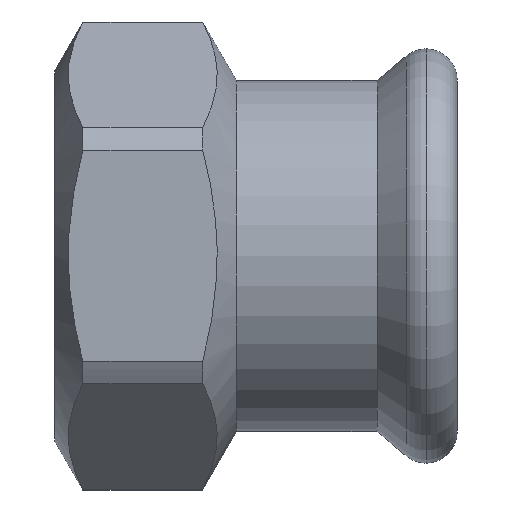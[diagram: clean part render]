
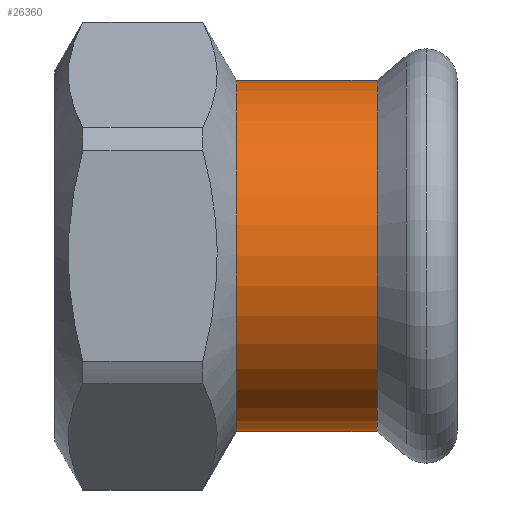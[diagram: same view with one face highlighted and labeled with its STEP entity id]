
A CAD part, top view. The second image highlights one B-rep face of the part: STEP entity #26360.
In plain terms, the highlighted cylindrical face has radius 22.7 mm (diameter 45.4 mm), a partial arc.
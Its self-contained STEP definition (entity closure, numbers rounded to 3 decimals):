
#1140=CARTESIAN_POINT('',(270.035,97.842,
0.));
#1150=VERTEX_POINT('',#1140);
#4150=CARTESIAN_POINT('',(270.035,143.242,0.));
#4160=VERTEX_POINT('',#4150);
#4190=CARTESIAN_POINT('',(270.035,120.542,0.));
#4200=DIRECTION('',(-1.,0.,0.));
#4210=DIRECTION('',(0.,1.,0.));
#4220=AXIS2_PLACEMENT_3D('',#4190,#4200,#4210);
#4230=CIRCLE('',#4220,22.7);
#4240=EDGE_CURVE('',#1150,#4160,#4230,.T.);
#25810=CARTESIAN_POINT('',(288.222,97.842,0.));
#25820=VERTEX_POINT('',#25810);
#26000=CARTESIAN_POINT('',(288.222,143.242,
0.));
#26010=VERTEX_POINT('',#26000);
#26040=CARTESIAN_POINT('',(288.222,120.542,0.));
#26050=DIRECTION('',(1.,0.,0.));
#26060=DIRECTION('',(0.,1.,0.));
#26070=AXIS2_PLACEMENT_3D('',#26040,#26050,#26060);
#26080=CIRCLE('',#26070,22.7);
#26140=CARTESIAN_POINT('',(277.82,120.542,0.));
#26150=DIRECTION('',(-1.,0.,0.));
#26160=DIRECTION('',(0.,1.,0.));
#26170=AXIS2_PLACEMENT_3D('',#26140,#26150,#26160);
#26180=CYLINDRICAL_SURFACE('',#26170,22.7);
#26190=CARTESIAN_POINT('',(277.82,143.242,0.));
#26200=DIRECTION('',(-1.,0.,0.));
#26210=VECTOR('',#26200,1.);
#26220=LINE('',#26190,#26210);
#26230=EDGE_CURVE('',#26010,#4160,#26220,.T.);
#26240=ORIENTED_EDGE('',*,*,#26230,.T.);
#26250=EDGE_CURVE('',#26010,#25820,#26080,.T.);
#26260=ORIENTED_EDGE('',*,*,#26250,.F.);
#26270=CARTESIAN_POINT('',(277.82,97.842,
0.));
#26280=DIRECTION('',(-1.,0.,0.));
#26290=VECTOR('',#26280,1.);
#26300=LINE('',#26270,#26290);
#26310=EDGE_CURVE('',#25820,#1150,#26300,.T.);
#26320=ORIENTED_EDGE('',*,*,#26310,.F.);
#26330=ORIENTED_EDGE('',*,*,#4240,.F.);
#26340=EDGE_LOOP('',(#26330,#26320,#26260,#26240));
#26350=FACE_OUTER_BOUND('',#26340,.T.);
#26360=ADVANCED_FACE('',(#26350),#26180,.T.);
